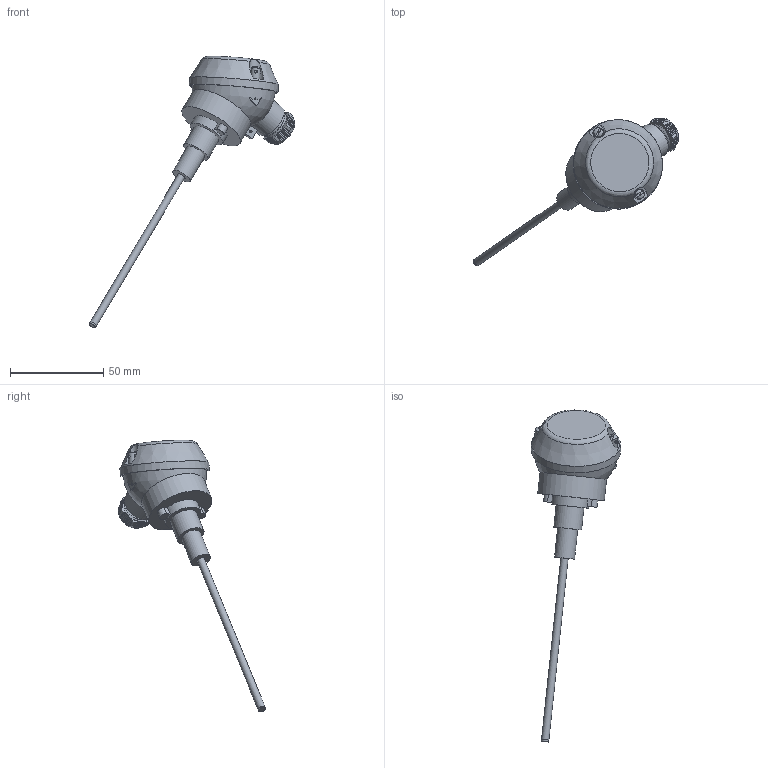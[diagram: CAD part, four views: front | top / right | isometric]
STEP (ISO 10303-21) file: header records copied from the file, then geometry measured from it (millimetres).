
FILE_DESCRIPTION(('STEP AP203'), '1');
FILE_NAME('òñï-í 5.0-100ìì(ñáîðêà)', '', ('UNSPECIFIED'), ('UNSPECIFIED'), 'ASCON STEP Converter 1.6', 'ASCON Math Kernel', '');
FILE_SCHEMA(('CONFIG_CONTROL_DESIGN'));
Length unit declared in the file: millimetre
Products named in the file (17): 栖闉罻; ﾘ琺矜 4; Ãàéêà Ì4; Êë êàëîäêà 731196-002; ﾘ琺矜 758480-006; Êîðïóñ 731196_Ïî óìîë÷àíèþ; Êîëüöî óïëîòíèòåëüíîå 754100-003_Ïî óìîë÷àíèþ; Âèíò Ì3-6; Âèíò 758410-005_Ïî óìîë÷àíèþ; Ïðîêëàäêà 754100_Ïî óìîë÷àíèþ; Êîðïóñ 723110-008-09_Ïî óìîë÷àíèþ; Çàãëóøêà 752513-004-01_Ïî óìîë÷àíèþ; Êðûøêà 753214_Ïî óìîë÷àíèþ; Ïåðåìû÷êà 758480-009; Âòóëêà ðåçüáîâàÿ 715341-002_Ïî óìîë÷àíèþ; Âèíò 715341-003_Ïî óìîë÷àíèþ
Assembly tree (40 placements, depth 3):
  栖闉罻
    ﾘ琺矜 4  x12
    Ãàéêà Ì4  x8
    Êë êàëîäêà 731196-002
    ﾘ琺矜 758480-006  x4
    Êîðïóñ 731196_Ïî óìîë÷àíèþ
    Êîëüöî óïëîòíèòåëüíîå 754100-003_Ïî óìîë÷àíèþ
    Âèíò Ì3-6  x2
    Âèíò 758410-005_Ïî óìîë÷àíèþ  x2
    Ïðîêëàäêà 754100_Ïî óìîë÷àíèþ
    Êîðïóñ 723110-008-09_Ïî óìîë÷àíèþ
      (unnamed)
      Çàãëóøêà 752513-004-01_Ïî óìîë÷àíèþ
    Êðûøêà 753214_Ïî óìîë÷àíèþ
    Ïåðåìû÷êà 758480-009  x2
    Âòóëêà ðåçüáîâàÿ 715341-002_Ïî óìîë÷àíèþ
    Âèíò 715341-003_Ïî óìîë÷àíèþ
Bounding box: 110.61 x 79.26 x 145.96 mm (x, y, z)
Volume: 41105.2 mm3; surface area: 34953.4 mm2
Topology: 39 solids, 39 shells, 821 faces, 2134 edges, 1416 vertices
Faces by surface type: plane 361, cylinder 305, cone 70, bspline 64, torus 19, sphere 2
Full cylindrical faces by diameter (mm): 1.6 x9, 2.46 x2, 2.5 x2, 3 x3, 3.4 x2, 3.5 x1, 4 x14, 4.2 x4, 4.3 x4, 4.5 x1, 5 x2, 5.2 x1, 6 x3, 7 x1, 8 x1, 9 x12, 10 x1, 10.8 x1, 14 x1, 15 x1, 19 x1, 20 x1, 31 x1, 33 x1, 35 x1, 36 x1, 45.5 x1, 46 x1, 48 x1
Entity records: 112943 total; most frequent: CARTESIAN_POINT 95135, ORIENTED_EDGE 2736, DIRECTION 2019, EDGE_CURVE 1368, VERTEX_POINT 950, AXIS2_PLACEMENT_3D 748, EDGE_LOOP 668, B_SPLINE_CURVE_WITH_KNOTS 593
